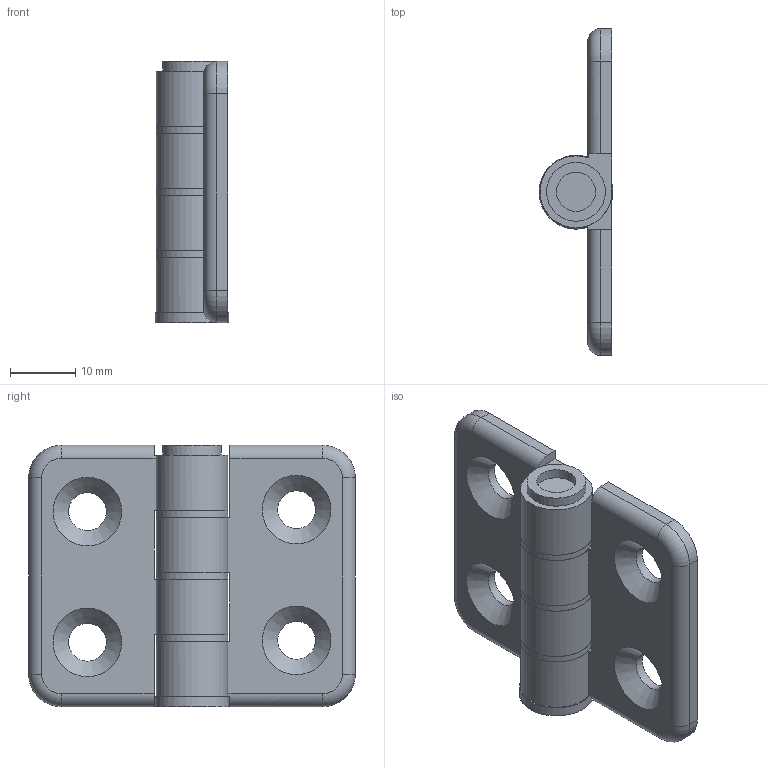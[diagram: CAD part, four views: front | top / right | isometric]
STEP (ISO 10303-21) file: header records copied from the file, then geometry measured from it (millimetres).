
FILE_DESCRIPTION(/* description */ (''),/* implementation_level */ '2;1');
FILE_NAME(/* name */ '\\NAS\db20\HS4050-1\DR_HS4050-1.stp',/* time_stamp */ '2021-02-22T12:06:46+09:00',/* author */ ('user'),/* organization */ (''),/* preprocessor_version */ 'ST-DEVELOPER v15.6',/* originating_system */ 'Autodesk Inventor 2015',/* authorisation */ '');
FILE_SCHEMA (('AUTOMOTIVE_DESIGN { 1 0 10303 214 3 1 1 }'));
Length unit declared in the file: millimetre
Products named in the file (4): 날개; 와샤; 축; DR_HS4050-1
Bounding box: 11.3 x 50 x 40 mm (x, y, z)
Volume: 8804.3 mm3; surface area: 7764 mm2
Topology: 6 solids, 6 shells, 75 faces, 172 edges, 112 vertices
Faces by surface type: plane 35, cylinder 32, torus 4, cone 4
Full cylindrical faces by diameter (mm): 5.8 x4, 6 x1, 8 x8, 9 x1, 11 x3, 11.3 x1
Entity records: 1186 total; most frequent: DIRECTION 212, CARTESIAN_POINT 184, ORIENTED_EDGE 150, AXIS2_PLACEMENT_3D 88, EDGE_CURVE 75, EDGE_LOOP 65, VERTEX_POINT 56, FACE_OUTER_BOUND 40
